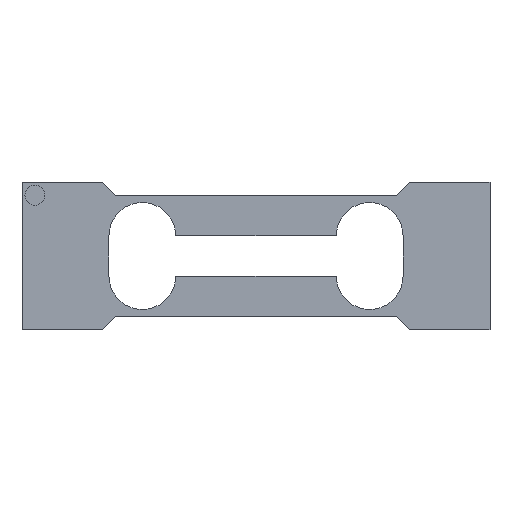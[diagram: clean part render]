
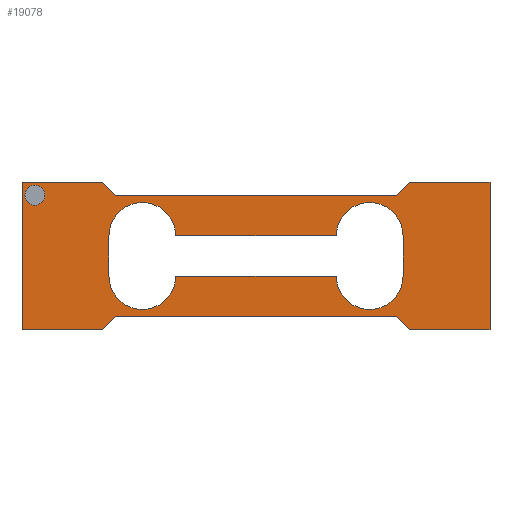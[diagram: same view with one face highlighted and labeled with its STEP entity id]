
A CAD part, front view. The second image highlights one B-rep face of the part: STEP entity #19078.
In plain terms, the highlighted planar face has unit normal (0, -1, 0).
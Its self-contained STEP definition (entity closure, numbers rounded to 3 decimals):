
#1=DIRECTION('',(0.,0.,1.));
#2=VECTOR('',#1,22.);
#3=CARTESIAN_POINT('',(-35.,-7.5,-11.));
#4=LINE('',#3,#2);
#5=DIRECTION('',(1.,0.,0.));
#6=VECTOR('',#5,12.);
#7=CARTESIAN_POINT('',(-35.,-7.5,11.));
#8=LINE('',#7,#6);
#9=DIRECTION('',(0.707,0.,-0.707));
#10=VECTOR('',#9,2.828);
#11=CARTESIAN_POINT('',(-23.,-7.5,11.));
#12=LINE('',#11,#10);
#13=DIRECTION('',(1.,0.,0.));
#14=VECTOR('',#13,42.);
#15=CARTESIAN_POINT('',(-21.,-7.5,9.));
#16=LINE('',#15,#14);
#17=DIRECTION('',(0.707,0.,0.707));
#18=VECTOR('',#17,2.828);
#19=CARTESIAN_POINT('',(21.,-7.5,9.));
#20=LINE('',#19,#18);
#21=DIRECTION('',(1.,0.,0.));
#22=VECTOR('',#21,12.);
#23=CARTESIAN_POINT('',(23.,-7.5,11.));
#24=LINE('',#23,#22);
#25=DIRECTION('',(0.,0.,-1.));
#26=VECTOR('',#25,22.);
#27=CARTESIAN_POINT('',(35.,-7.5,11.));
#28=LINE('',#27,#26);
#29=DIRECTION('',(-1.,0.,0.));
#30=VECTOR('',#29,12.);
#31=CARTESIAN_POINT('',(35.,-7.5,-11.));
#32=LINE('',#31,#30);
#33=DIRECTION('',(-0.707,0.,0.707));
#34=VECTOR('',#33,2.828);
#35=CARTESIAN_POINT('',(23.,-7.5,-11.));
#36=LINE('',#35,#34);
#37=DIRECTION('',(-1.,0.,0.));
#38=VECTOR('',#37,42.);
#39=CARTESIAN_POINT('',(21.,-7.5,-9.));
#40=LINE('',#39,#38);
#41=DIRECTION('',(-0.707,0.,-0.707));
#42=VECTOR('',#41,2.828);
#43=CARTESIAN_POINT('',(-21.,-7.5,-9.));
#44=LINE('',#43,#42);
#45=DIRECTION('',(-1.,0.,0.));
#46=VECTOR('',#45,12.);
#47=CARTESIAN_POINT('',(-23.,-7.5,-11.));
#48=LINE('',#47,#46);
#49=DIRECTION('',(0.,0.,-1.));
#50=VECTOR('',#49,6.);
#51=CARTESIAN_POINT('',(-22.,-7.5,3.));
#52=LINE('',#51,#50);
#53=CARTESIAN_POINT('',(-17.,-7.5,-3.));
#54=DIRECTION('',(0.,-1.,0.));
#55=DIRECTION('',(-1.,0.,0.));
#56=AXIS2_PLACEMENT_3D('',#53,#54,#55);
#58=DIRECTION('',(1.,0.,0.));
#59=VECTOR('',#58,24.);
#60=CARTESIAN_POINT('',(-12.,-7.5,-3.));
#61=LINE('',#60,#59);
#62=CARTESIAN_POINT('',(17.,-7.5,-3.));
#63=DIRECTION('',(0.,-1.,0.));
#64=DIRECTION('',(-1.,0.,0.));
#65=AXIS2_PLACEMENT_3D('',#62,#63,#64);
#67=DIRECTION('',(0.,0.,1.));
#68=VECTOR('',#67,6.);
#69=CARTESIAN_POINT('',(22.,-7.5,-3.));
#70=LINE('',#69,#68);
#71=CARTESIAN_POINT('',(17.,-7.5,3.));
#72=DIRECTION('',(0.,-1.,0.));
#73=DIRECTION('',(1.,0.,0.));
#74=AXIS2_PLACEMENT_3D('',#71,#72,#73);
#76=DIRECTION('',(-1.,0.,0.));
#77=VECTOR('',#76,24.);
#78=CARTESIAN_POINT('',(12.,-7.5,3.));
#79=LINE('',#78,#77);
#80=CARTESIAN_POINT('',(-17.,-7.5,3.));
#81=DIRECTION('',(0.,-1.,0.));
#82=DIRECTION('',(1.,0.,0.));
#83=AXIS2_PLACEMENT_3D('',#80,#81,#82);
#85=CARTESIAN_POINT('',(-33.07,-7.5,9.1));
#86=DIRECTION('',(0.,-1.,0.));
#87=DIRECTION('',(1.,0.,0.));
#88=AXIS2_PLACEMENT_3D('',#85,#86,#87);
#90=CARTESIAN_POINT('',(-33.07,-7.5,9.1));
#91=DIRECTION('',(0.,-1.,0.));
#92=DIRECTION('',(-1.,0.,0.));
#93=AXIS2_PLACEMENT_3D('',#90,#91,#92);
#18013=CARTESIAN_POINT('',(-35.,-7.5,-11.));
#18014=CARTESIAN_POINT('',(-35.,-7.5,11.));
#18015=VERTEX_POINT('',#18013);
#18016=VERTEX_POINT('',#18014);
#18017=CARTESIAN_POINT('',(-23.,-7.5,11.));
#18018=VERTEX_POINT('',#18017);
#18019=CARTESIAN_POINT('',(-21.,-7.5,9.));
#18020=VERTEX_POINT('',#18019);
#18021=CARTESIAN_POINT('',(21.,-7.5,9.));
#18022=VERTEX_POINT('',#18021);
#18023=CARTESIAN_POINT('',(23.,-7.5,11.));
#18024=VERTEX_POINT('',#18023);
#18025=CARTESIAN_POINT('',(35.,-7.5,11.));
#18026=VERTEX_POINT('',#18025);
#18027=CARTESIAN_POINT('',(35.,-7.5,-11.));
#18028=VERTEX_POINT('',#18027);
#18029=CARTESIAN_POINT('',(23.,-7.5,-11.));
#18030=VERTEX_POINT('',#18029);
#18031=CARTESIAN_POINT('',(21.,-7.5,-9.));
#18032=VERTEX_POINT('',#18031);
#18033=CARTESIAN_POINT('',(-21.,-7.5,-9.));
#18034=VERTEX_POINT('',#18033);
#18035=CARTESIAN_POINT('',(-23.,-7.5,-11.));
#18036=VERTEX_POINT('',#18035);
#18037=CARTESIAN_POINT('',(-22.,-7.5,3.));
#18038=CARTESIAN_POINT('',(-22.,-7.5,-3.));
#18039=VERTEX_POINT('',#18037);
#18040=VERTEX_POINT('',#18038);
#18041=CARTESIAN_POINT('',(-12.,-7.5,-3.));
#18042=VERTEX_POINT('',#18041);
#18043=CARTESIAN_POINT('',(12.,-7.5,-3.));
#18044=VERTEX_POINT('',#18043);
#18045=CARTESIAN_POINT('',(22.,-7.5,-3.));
#18046=VERTEX_POINT('',#18045);
#18047=CARTESIAN_POINT('',(22.,-7.5,3.));
#18048=VERTEX_POINT('',#18047);
#18049=CARTESIAN_POINT('',(12.,-7.5,3.));
#18050=VERTEX_POINT('',#18049);
#18051=CARTESIAN_POINT('',(-12.,-7.5,3.));
#18052=VERTEX_POINT('',#18051);
#19019=CARTESIAN_POINT('',(-31.57,-7.5,9.1));
#19020=CARTESIAN_POINT('',(-34.57,-7.5,9.1));
#19021=VERTEX_POINT('',#19019);
#19022=VERTEX_POINT('',#19020);
#19023=CARTESIAN_POINT('',(0.,-7.5,0.));
#19024=DIRECTION('',(0.,1.,0.));
#19025=DIRECTION('',(1.,0.,0.));
#19026=AXIS2_PLACEMENT_3D('',#19023,#19024,#19025);
#19027=PLANE('',#19026);
#19029=ORIENTED_EDGE('',*,*,#19028,.T.);
#19031=ORIENTED_EDGE('',*,*,#19030,.T.);
#19033=ORIENTED_EDGE('',*,*,#19032,.T.);
#19035=ORIENTED_EDGE('',*,*,#19034,.T.);
#19037=ORIENTED_EDGE('',*,*,#19036,.T.);
#19039=ORIENTED_EDGE('',*,*,#19038,.T.);
#19041=ORIENTED_EDGE('',*,*,#19040,.T.);
#19043=ORIENTED_EDGE('',*,*,#19042,.T.);
#19045=ORIENTED_EDGE('',*,*,#19044,.T.);
#19047=ORIENTED_EDGE('',*,*,#19046,.T.);
#19049=ORIENTED_EDGE('',*,*,#19048,.T.);
#19051=ORIENTED_EDGE('',*,*,#19050,.T.);
#19052=EDGE_LOOP('',(#19029,#19031,#19033,#19035,#19037,#19039,#19041,#19043,
#19045,#19047,#19049,#19051));
#19053=FACE_OUTER_BOUND('',#19052,.F.);
#19055=ORIENTED_EDGE('',*,*,#19054,.T.);
#19057=ORIENTED_EDGE('',*,*,#19056,.T.);
#19059=ORIENTED_EDGE('',*,*,#19058,.T.);
#19061=ORIENTED_EDGE('',*,*,#19060,.T.);
#19063=ORIENTED_EDGE('',*,*,#19062,.T.);
#19065=ORIENTED_EDGE('',*,*,#19064,.T.);
#19067=ORIENTED_EDGE('',*,*,#19066,.T.);
#19069=ORIENTED_EDGE('',*,*,#19068,.T.);
#19070=EDGE_LOOP('',(#19055,#19057,#19059,#19061,#19063,#19065,#19067,#19069));
#19071=FACE_BOUND('',#19070,.F.);
#19073=ORIENTED_EDGE('',*,*,#19072,.T.);
#19075=ORIENTED_EDGE('',*,*,#19074,.T.);
#19076=EDGE_LOOP('',(#19073,#19075));
#19077=FACE_BOUND('',#19076,.F.);
#57=CIRCLE('',#56,5.);
#66=CIRCLE('',#65,5.);
#75=CIRCLE('',#74,5.);
#84=CIRCLE('',#83,5.);
#89=CIRCLE('',#88,1.5);
#94=CIRCLE('',#93,1.5);
#19028=EDGE_CURVE('',#18015,#18016,#4,.T.);
#19030=EDGE_CURVE('',#18016,#18018,#8,.T.);
#19032=EDGE_CURVE('',#18018,#18020,#12,.T.);
#19034=EDGE_CURVE('',#18020,#18022,#16,.T.);
#19036=EDGE_CURVE('',#18022,#18024,#20,.T.);
#19038=EDGE_CURVE('',#18024,#18026,#24,.T.);
#19040=EDGE_CURVE('',#18026,#18028,#28,.T.);
#19042=EDGE_CURVE('',#18028,#18030,#32,.T.);
#19044=EDGE_CURVE('',#18030,#18032,#36,.T.);
#19046=EDGE_CURVE('',#18032,#18034,#40,.T.);
#19048=EDGE_CURVE('',#18034,#18036,#44,.T.);
#19050=EDGE_CURVE('',#18036,#18015,#48,.T.);
#19054=EDGE_CURVE('',#18039,#18040,#52,.T.);
#19056=EDGE_CURVE('',#18040,#18042,#57,.T.);
#19058=EDGE_CURVE('',#18042,#18044,#61,.T.);
#19060=EDGE_CURVE('',#18044,#18046,#66,.T.);
#19062=EDGE_CURVE('',#18046,#18048,#70,.T.);
#19064=EDGE_CURVE('',#18048,#18050,#75,.T.);
#19066=EDGE_CURVE('',#18050,#18052,#79,.T.);
#19068=EDGE_CURVE('',#18052,#18039,#84,.T.);
#19072=EDGE_CURVE('',#19021,#19022,#89,.T.);
#19074=EDGE_CURVE('',#19022,#19021,#94,.T.);
#19078=ADVANCED_FACE('',(#19053,#19071,#19077),#19027,.F.);
